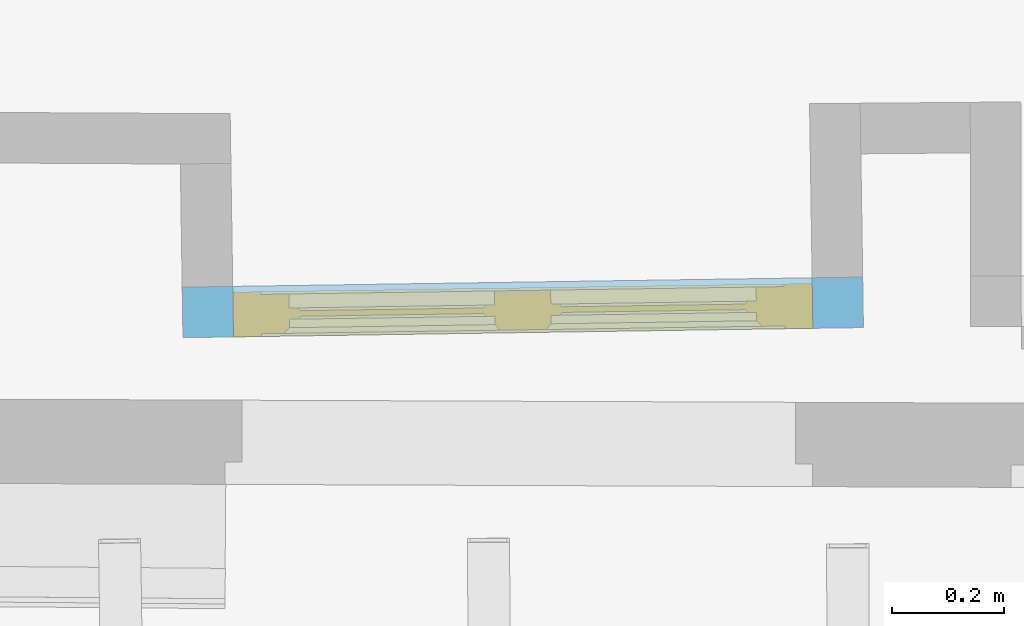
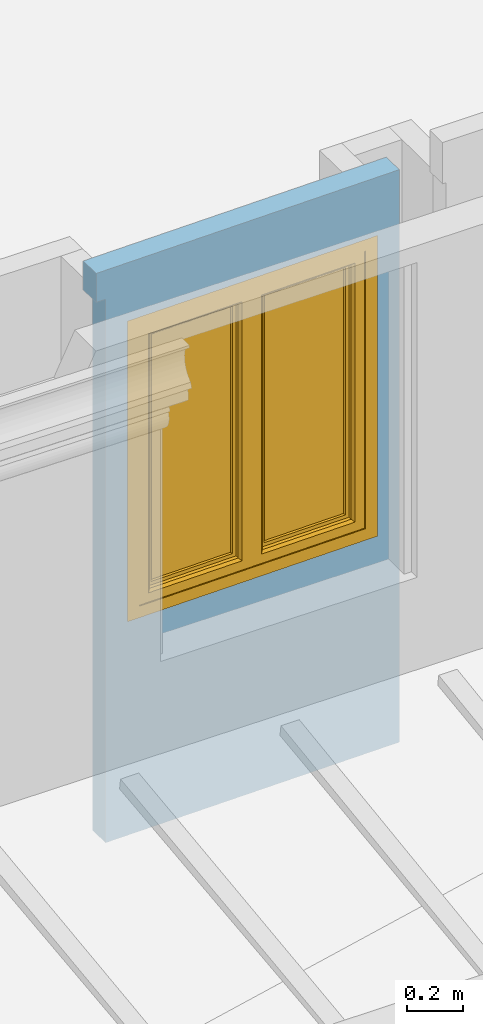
# One storey, part 42 of 72: 1 window, 1 opening, plus 1 element that does not belong to this part.
"""IFC2X3 building model written with IfcOpenShell, lengths in centimetres."""

from ifc_helpers import new_model, entity, si_unit, converted_unit, direction, frame, origin, origin_with_axes, origin_2d_with_axis, place, context, subcontext, project, spatial, polyline, rectangle, outline, extrude, clip, bounded_halfspace, faceted_brep, shape, source, transform, mapped, material, material_list, layer, layer_set, layer_usage, type_object, element, fill, save


model = new_model("IFC2X3")

# Units and contexts
model_context = context("Model", 3, precision=0.0001, world=origin(), true_north=direction((0.225632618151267, 0.974212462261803, 0.0)))
body_context = subcontext(model_context, "Body", "Model", "MODEL_VIEW")
footprint_context = subcontext(model_context, "FootPrint", "Model", "MODEL_VIEW")
profile_context = subcontext(model_context, "Profile", "Model", "MODEL_VIEW")
ifc_project = project(units=[si_unit("LENGTHUNIT", "METRE", prefix="CENTI"), si_unit("AREAUNIT", "SQUARE_METRE", prefix="CENTI"), si_unit("VOLUMEUNIT", "CUBIC_METRE", prefix="CENTI"), converted_unit("PLANEANGLEUNIT", "DEGREE", entity("IfcRatioMeasure", 0.0174532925), si_unit("PLANEANGLEUNIT", "RADIAN"), dimensions=[0, 0, 0, 0, 0, 0, 0])], contexts=[model_context])

# Site, building, storey
site_placement = place(None, origin_with_axes())
site = spatial("IfcSite", under=ifc_project, at=site_placement, Name="Default Site", CompositionType="ELEMENT")
building_placement = place(site_placement, origin_with_axes())
building = spatial("IfcBuilding", under=site, at=building_placement, Name="Default Building", CompositionType="ELEMENT")
storey_placement = place(building_placement, frame((0.0, 0.0, 853.910374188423), z_axis=(0.0, 0.0, 1.0), x_axis=(1.0, 0.0, 0.0)))
storey = spatial("IfcBuildingStorey", under=building, at=storey_placement, Name="Niveau 2", CompositionType="ELEMENT", Elevation=853.910374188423)

# Wall, opening, window
ifc_material_1 = material(Name="<aucun>")
ifc_layer = layer(ifc_material_1, 9.0)
ifc_layer_set = layer_set([ifc_layer], Name="default")
ifc_layer_usage = layer_usage(ifc_layer_set, "AXIS2", "POSITIVE", -4.5)
wall_type = type_object("IfcWallType", Name="default 90", PredefinedType="NOTDEFINED", material=ifc_layer_set)
wall_placement = place(storey_placement, frame((-341.950629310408, -714.315023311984, 1.4210854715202e-12), z_axis=(0.0, 0.0, 1.0), x_axis=(0.999890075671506, 0.0148268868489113, 0.0)))
wall = element("IfcWallStandardCase", 1, at=wall_placement, inside=storey, type_object=wall_type, material=ifc_layer_usage, Name="Enveloppe 158783", context=body_context, shape_type="Clipping", body=[
    clip(extrude(rectangle(XDim=125.007775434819, YDim=9.00000000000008, at=origin_2d_with_axis()), frame((62.5038877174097, 1.77635683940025e-13, -1.06581410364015e-12), z_axis=(0.0, 0.0, 1.0), x_axis=(1.0, 2.62290189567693e-15, 0.0)), (0.0, 0.0, 1.0), 247.500000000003), bounded_halfspace(frame((0.0, 4.50000000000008, 234.999999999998), z_axis=(0.0, 0.0, 1.0), x_axis=(1.0, -6.38551711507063e-15, 0.0)), True, frame((0.0, 4.50000000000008, 234.999999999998), z_axis=(0.0, 0.0, 1.0), x_axis=(1.0, 0.0, 0.0)), polyline([(0.0, -8.99999999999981), (0.0, 0.0), (3.84491063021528, 8.88178419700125e-14), (3.84491063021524, -8.99999999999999), (0.0, -8.99999999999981)]))),
])
opening_placement = place(wall_placement, frame((12.8449106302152, 0.0, 92.2964592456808), z_axis=(0.0, 0.0, 1.0), x_axis=(1.0, 2.62290189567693e-15, 0.0)))
cartesian_point_1 = entity("IfcCartesianPoint", [0.0, 1.77635683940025e-13, 130.0])
cartesian_point_2 = entity("IfcCartesianPoint", [103.162864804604, 4.50000000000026])
opening = element("IfcOpeningElement", 2, at=opening_placement, cuts=wall, Name="4294966444_11", ObjectType="Opening", shapes=[
    shape(body_context, "Body", "SweptSolid", [extrude(outline(polyline([(0.0, 130.0), (0.0, 0.0), (103.162864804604, 0.0), (103.162864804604, 130.0), (0.0, 130.0)])), frame((0.0, 14.5, 0.0), z_axis=(0.0, -1.0, 0.0), x_axis=(1.0, 0.0, 0.0)), (0.0, 0.0, 1.0), 29.0)]),
    shape(profile_context, "Profile", "GeometricCurveSet", [entity("IfcGeometricCurveSet", [entity("IfcPolyline", [cartesian_point_1, entity("IfcCartesianPoint", [0.0, 1.77635683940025e-13, 0.0]), entity("IfcCartesianPoint", [103.162864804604, 1.77635683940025e-13, 0.0]), entity("IfcCartesianPoint", [103.162864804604, 1.77635683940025e-13, 130.0]), cartesian_point_1])])]),
    shape(footprint_context, "FootPrint", "GeometricCurveSet", [entity("IfcGeometricCurveSet", [entity("IfcPolyline", [cartesian_point_2, entity("IfcCartesianPoint", [0.0, 4.50000000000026]), entity("IfcCartesianPoint", [-4.44089209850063e-14, -4.49999999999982]), entity("IfcCartesianPoint", [103.162864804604, -4.4999999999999]), cartesian_point_2])])]),
])
ifc_material_2 = material(Name="Transparent")
ifc_material_3 = material(Name="Jaune 255-255-0")
ifc_material_4 = material(Name="Aluminium satiné")
ifc_material_list = material_list([ifc_material_2, ifc_material_3, ifc_material_4])
window_style = type_object("IfcWindowStyle", Name="FN[R] 2VB[1V] MM", ConstructionType="NOTDEFINED", OperationType="DOUBLE_PANEL_VERTICAL", ParameterTakesPrecedence=True, Sizeable=False, material=ifc_material_list)
shared_shape = source(origin_with_axes(), body_context, "Body", "Brep", [
    faceted_brep([(-46.58143222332, 125.0, -3.99999991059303), (-46.58143222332, 125.0, 3.99999991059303), (-46.58143222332, 5.00000007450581, 3.99999991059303), (-46.58143222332, 5.00000007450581, -3.99999991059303), (-51.5814304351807, 129.999995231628, 3.99999991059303), (-51.5814304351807, 0.0, 3.99999991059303), (-51.5814304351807, 129.999995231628, -3.99999991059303), (-51.5814304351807, 9.48150143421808e-31, -3.99999991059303), (-51.5814304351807, 9.48150143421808e-31, 3.99999991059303), (-51.5814304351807, 0.0, -3.99999991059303), (46.58143222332, 5.0000000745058, 3.99999991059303), (46.58143222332, 5.0000000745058, -3.99999991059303), (51.5814304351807, 0.0, 3.99999991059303), (46.58143222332, 5.00000007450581, 3.99999991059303), (51.5814304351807, 0.0, -3.99999991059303), (46.58143222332, 5.00000007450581, -3.99999991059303), (46.58143222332, 125.0, 3.99999991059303), (46.58143222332, 125.0, -3.99999991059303), (51.5814304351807, 129.999995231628, 3.99999991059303), (51.5814304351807, 129.999995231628, -3.99999991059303)], [[[0, 1, 2, 3]], [[1, 4, 5, 2]], [[4, 6, 7, 8]], [[6, 0, 3, 9]], [[3, 2, 10, 11]], [[2, 5, 12, 13]], [[5, 9, 14, 12]], [[9, 3, 15, 14]], [[15, 13, 16, 17]], [[13, 12, 18, 16]], [[12, 14, 19, 18]], [[14, 15, 17, 19]], [[17, 16, 1, 0]], [[16, 18, 4, 1]], [[18, 19, 6, 4]], [[19, 17, 0, 6]]]),
    faceted_brep([(-42.581433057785, 121.000003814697, -3.50000001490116), (-41.5814320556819, 120.000004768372, -2.49999901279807), (-41.581432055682, 10.0000001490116, -2.49999901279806), (-42.581433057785, 9.00000035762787, -3.50000001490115), (-41.5814310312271, 120.000004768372, -2.5000000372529), (-41.5814310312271, 120.000004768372, 3.50000001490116), (-41.5814310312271, 10.0000001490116, 3.50000001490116), (-41.5814310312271, 10.0000001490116, -2.5000000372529), (-46.58143222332, 125.0, 3.50000001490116), (-46.58143222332, 5.00000007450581, 3.50000001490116), (-46.58143222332, 125.0, -3.50000001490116), (-46.58143222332, 5.00000007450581, -3.50000001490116), (-42.581433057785, 9.00000035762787, -3.50000001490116), (-41.5814310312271, 10.0000002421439, -2.50000013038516), (-5.00000007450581, 10.0000002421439, -2.50000013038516), (-3.99999991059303, 9.00000035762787, -3.50000001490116), (-5.00000007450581, 10.0000001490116, 3.50000001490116), (-5.00000007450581, 10.0000001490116, -2.5000000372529), (0.0, 5.00000007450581, 3.50000001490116), (0.0, 5.00000007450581, -3.50000001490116), (-4.99999998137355, 10.0000001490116, -2.49999994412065), (-4.99999998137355, 120.000004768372, -2.49999994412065), (-3.99999991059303, 121.000003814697, -3.50000001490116), (-5.00000007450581, 120.000004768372, 3.50000001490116), (-5.00000007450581, 120.000004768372, -2.5000000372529), (5.55111512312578e-15, 125.0, 3.50000001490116), (5.5511149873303e-15, 125.0, -3.50000001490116), (5.5511149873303e-15, 125.0, 3.50000001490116), (5.55111512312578e-15, 125.0, -3.50000001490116), (-5.00000007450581, 120.00000430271, -2.50000050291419), (-41.5814310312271, 120.00000430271, -2.50000050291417), (-42.581433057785, 121.000003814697, -3.50000001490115)], [[[0, 1, 2, 3]], [[4, 5, 6, 7]], [[5, 8, 9, 6]], [[8, 10, 11, 9]], [[10, 0, 12, 11]], [[12, 13, 14, 15]], [[7, 6, 16, 17]], [[6, 9, 18, 16]], [[9, 11, 19, 18]], [[11, 12, 15, 19]], [[15, 20, 21, 22]], [[17, 16, 23, 24]], [[16, 18, 25, 23]], [[18, 19, 26, 27]], [[19, 15, 22, 28]], [[22, 29, 30, 31]], [[24, 23, 5, 4]], [[23, 25, 8, 5]], [[25, 28, 10, 8]], [[28, 22, 0, 10]]]),
    faceted_brep([(-40.0814324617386, 118.499994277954, -0.999999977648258), (-39.5814327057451, 117.999994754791, -0.500000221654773), (-39.5814327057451, 11.9999997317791, -0.500000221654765), (-40.0814324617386, 11.5000002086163, -0.99999997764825), (-39.5814329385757, 117.999994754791, -0.499999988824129), (-39.5814329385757, 117.999994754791, 0.499999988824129), (-39.5814329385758, 11.9999997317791, 0.499999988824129), (-39.5814329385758, 11.9999997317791, -0.499999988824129), (-40.0814326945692, 118.499994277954, 0.999999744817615), (-40.0814326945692, 11.5000002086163, 0.999999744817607), (-39.5814329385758, 11.9999997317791, 0.499999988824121), (-40.0814324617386, 118.499994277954, 0.999999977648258), (-41.5814310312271, 120.000004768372, 0.999999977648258), (-41.5814310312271, 10.0000001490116, 0.999999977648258), (-40.0814324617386, 11.5000002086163, 0.999999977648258), (-41.5814310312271, 120.000004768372, -0.999999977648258), (-41.5814310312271, 10.0000001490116, -0.999999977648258), (-40.0814324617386, 11.5000002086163, -0.999999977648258), (-39.5814329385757, 11.9999999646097, -0.500000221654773), (-7.00000002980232, 11.9999999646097, -0.500000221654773), (-6.49999976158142, 11.5000002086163, -0.999999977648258), (-39.5814329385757, 11.9999997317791, -0.499999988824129), (-39.5814329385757, 11.9999997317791, 0.499999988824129), (-7.00000002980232, 11.9999997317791, 0.499999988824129), (-7.00000002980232, 11.9999997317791, -0.499999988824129), (-40.0814324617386, 11.4999999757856, 0.999999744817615), (-6.49999976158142, 11.4999999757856, 0.999999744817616), (-7.00000002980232, 11.9999997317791, 0.499999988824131), (-5.00000007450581, 10.0000001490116, 0.999999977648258), (-6.49999976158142, 11.5000002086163, 0.999999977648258), (-5.00000007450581, 10.0000001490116, -0.999999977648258), (-6.99999989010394, 11.9999997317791, -0.499999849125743), (-6.99999989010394, 117.999994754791, -0.499999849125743), (-6.49999976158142, 118.499994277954, -0.999999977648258), (-7.00000002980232, 117.999994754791, 0.499999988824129), (-7.00000002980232, 117.999994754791, -0.499999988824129), (-6.49999990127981, 11.5000002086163, 1.00000011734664), (-6.4999999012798, 118.499994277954, 1.00000011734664), (-7.00000002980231, 117.999994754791, 0.499999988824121), (-5.00000007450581, 120.000004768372, 0.999999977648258), (-6.49999976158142, 118.499994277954, 0.999999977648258), (-5.0000000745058, 120.000004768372, -0.999999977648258), (-5.0000000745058, 120.000004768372, 0.999999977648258), (-5.00000007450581, 120.000004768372, -0.999999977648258), (-7.00000002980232, 117.999994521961, -0.500000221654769), (-39.5814329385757, 117.999994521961, -0.500000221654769), (-6.49999976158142, 118.499994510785, 0.999999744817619), (-40.0814324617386, 118.499994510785, 0.999999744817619)], [[[0, 1, 2, 3]], [[4, 5, 6, 7]], [[5, 8, 9, 10]], [[11, 12, 13, 14]], [[12, 15, 16, 13]], [[15, 0, 17, 16]], [[17, 18, 19, 20]], [[21, 22, 23, 24]], [[22, 25, 26, 27]], [[14, 13, 28, 29]], [[13, 16, 30, 28]], [[16, 17, 20, 30]], [[20, 31, 32, 33]], [[24, 23, 34, 35]], [[23, 36, 37, 38]], [[29, 28, 39, 40]], [[28, 30, 41, 42]], [[30, 20, 33, 43]], [[33, 44, 45, 0]], [[35, 34, 5, 4]], [[34, 46, 47, 5]], [[40, 39, 12, 11]], [[39, 43, 15, 12]], [[43, 33, 0, 15]]]),
    faceted_brep([(-7.00000002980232, 117.999994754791, -0.499999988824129), (-7.00000002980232, 11.9999997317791, -0.499999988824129), (-39.5814329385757, 11.9999997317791, -0.499999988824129), (-39.5814329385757, 117.999994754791, -0.499999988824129), (-39.5814329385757, 117.999994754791, 0.499999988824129), (-39.5814329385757, 11.9999997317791, 0.499999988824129), (-7.00000002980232, 11.9999997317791, 0.499999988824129), (-7.00000002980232, 117.999994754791, 0.499999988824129), (-39.5814329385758, 11.9999997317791, -0.499999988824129), (-39.5814329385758, 11.9999997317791, 0.499999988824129)], [[[0, 1, 2, 3]], [[4, 5, 6, 7]], [[3, 8, 9, 4]], [[2, 1, 6, 5]], [[1, 0, 7, 6]], [[0, 3, 4, 7]]]),
    faceted_brep([(3.99999991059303, 121.000003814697, -3.50000001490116), (4.99999998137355, 120.000004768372, -2.49999994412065), (4.99999998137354, 10.0000001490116, -2.49999994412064), (3.99999991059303, 9.00000035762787, -3.50000001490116), (5.00000007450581, 120.000004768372, -2.5000000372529), (5.00000007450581, 120.000004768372, 3.50000001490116), (5.0000000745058, 10.0000001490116, 3.50000001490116), (5.0000000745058, 10.0000001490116, -2.5000000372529), (5.55111512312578e-15, 125.0, 3.50000001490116), (0.0, 5.00000007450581, 3.50000001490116), (5.00000007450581, 10.0000001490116, 3.50000001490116), (5.55111512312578e-15, 125.0, -3.50000001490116), (1.35795483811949e-22, 5.00000007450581, -3.50000001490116), (1.35795483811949e-22, 5.00000007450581, 3.50000001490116), (0.0, 5.00000007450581, -3.50000001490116), (5.00000007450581, 10.0000002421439, -2.50000013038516), (41.5814310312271, 10.0000002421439, -2.50000013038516), (42.581433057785, 9.00000035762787, -3.50000001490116), (5.00000007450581, 10.0000001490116, -2.5000000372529), (41.5814310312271, 10.0000001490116, 3.50000001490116), (41.5814310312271, 10.0000001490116, -2.5000000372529), (46.58143222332, 5.00000007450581, 3.50000001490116), (46.58143222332, 5.00000007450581, -3.50000001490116), (41.5814320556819, 10.0000001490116, -2.49999901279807), (41.5814320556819, 120.000004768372, -2.49999901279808), (42.581433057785, 121.000003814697, -3.50000001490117), (41.5814310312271, 120.000004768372, 3.50000001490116), (41.5814310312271, 120.000004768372, -2.5000000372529), (46.58143222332, 125.0, 3.50000001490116), (46.58143222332, 125.0, -3.50000001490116), (42.581433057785, 121.000003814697, -3.50000001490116), (41.5814310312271, 120.00000430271, -2.50000050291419), (5.00000007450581, 120.00000430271, -2.50000050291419)], [[[0, 1, 2, 3]], [[4, 5, 6, 7]], [[5, 8, 9, 10]], [[8, 11, 12, 13]], [[11, 0, 3, 14]], [[3, 15, 16, 17]], [[18, 10, 19, 20]], [[10, 9, 21, 19]], [[9, 14, 22, 21]], [[14, 3, 17, 22]], [[17, 23, 24, 25]], [[20, 19, 26, 27]], [[19, 21, 28, 26]], [[21, 22, 29, 28]], [[22, 17, 30, 29]], [[30, 31, 32, 0]], [[27, 26, 5, 4]], [[26, 28, 8, 5]], [[28, 29, 11, 8]], [[29, 30, 0, 11]]]),
    faceted_brep([(4.50000017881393, 67.0000016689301, 3.50000001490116), (4.50000017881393, 62.9999995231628, 3.50000001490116), (0.499999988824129, 62.9999995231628, 3.50000001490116), (0.499999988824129, 67.0000016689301, 3.50000001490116), (0.499999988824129, 67.0000016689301, 4.30000014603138), (0.499999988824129, 62.9999995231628, 4.30000014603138), (4.50000017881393, 62.9999995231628, 4.30000014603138), (4.50000017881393, 67.0000016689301, 4.30000014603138)], [[[0, 1, 2, 3]], [[4, 5, 6, 7]], [[3, 2, 5, 4]], [[2, 1, 6, 5]], [[1, 0, 7, 6]], [[0, 3, 4, 7]]]),
    faceted_brep([(3.24999988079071, 65.4999971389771, 4.30000014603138), (3.24999988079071, 64.4999980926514, 4.30000014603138), (1.75000000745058, 64.4999980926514, 4.30000014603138), (1.75000000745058, 65.4999971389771, 4.30000014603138), (1.75000000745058, 65.4999971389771, 8.29999968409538), (1.75000000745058, 64.4999977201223, 7.30000026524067), (3.24999988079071, 64.4999977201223, 7.30000026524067), (3.24999988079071, 65.4999971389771, 8.29999968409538), (1.75000000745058, 64.4999980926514, 7.29999989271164), (3.24999988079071, 64.4999980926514, 7.29999989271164)], [[[0, 1, 2, 3]], [[4, 5, 6, 7]], [[3, 2, 8, 4]], [[2, 1, 9, 8]], [[1, 0, 7, 9]], [[0, 3, 4, 7]]]),
    faceted_brep([(3.24999988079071, 65.4999971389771, 8.29999968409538), (3.24999988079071, 64.4999977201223, 7.30000026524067), (1.75000000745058, 64.4999977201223, 7.30000026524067), (1.75000000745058, 65.4999971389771, 8.29999968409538), (1.75000000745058, 52.4999976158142, 8.29999968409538), (1.75000000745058, 52.4999976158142, 7.29999989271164), (3.24999988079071, 52.4999976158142, 7.29999989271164), (3.24999988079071, 52.4999976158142, 8.29999968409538), (1.75000000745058, 64.4999980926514, 7.29999989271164), (3.24999988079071, 64.4999980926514, 7.29999989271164)], [[[0, 1, 2, 3]], [[4, 5, 6, 7]], [[3, 8, 5, 4]], [[8, 9, 6, 5]], [[9, 0, 7, 6]], [[0, 3, 4, 7]]]),
    faceted_brep([(6.49999976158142, 118.499994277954, -0.999999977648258), (6.99999989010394, 117.999994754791, -0.499999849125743), (6.99999989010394, 11.9999997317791, -0.499999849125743), (6.49999976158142, 11.5000002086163, -0.999999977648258), (7.00000002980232, 117.999994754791, -0.499999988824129), (7.00000002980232, 117.999994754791, 0.499999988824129), (7.00000002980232, 11.9999997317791, 0.499999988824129), (7.00000002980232, 11.9999997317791, -0.499999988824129), (6.49999990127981, 118.499994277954, 1.00000011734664), (6.4999999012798, 11.5000002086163, 1.00000011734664), (7.00000002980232, 11.9999997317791, 0.499999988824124), (6.49999976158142, 118.499994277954, 0.999999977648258), (5.00000007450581, 120.000004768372, 0.999999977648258), (5.00000007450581, 10.0000001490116, 0.999999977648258), (6.49999976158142, 11.5000002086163, 0.999999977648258), (5.00000007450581, 120.000004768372, -0.999999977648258), (5.0000000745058, 10.0000001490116, -0.999999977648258), (5.0000000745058, 10.0000001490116, 0.999999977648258), (5.00000007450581, 10.0000001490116, -0.999999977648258), (7.00000002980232, 11.9999999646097, -0.500000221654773), (39.5814329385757, 11.9999999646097, -0.500000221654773), (40.0814324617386, 11.5000002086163, -0.999999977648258), (39.5814329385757, 11.9999997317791, 0.499999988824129), (39.5814329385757, 11.9999997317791, -0.499999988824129), (6.49999976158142, 11.4999999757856, 0.999999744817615), (40.0814324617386, 11.4999999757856, 0.999999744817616), (39.5814329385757, 11.9999997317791, 0.499999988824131), (41.5814310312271, 10.0000001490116, 0.999999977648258), (40.0814324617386, 11.5000002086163, 0.999999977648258), (41.5814310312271, 10.0000001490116, -0.999999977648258), (39.5814327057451, 11.9999997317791, -0.500000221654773), (39.5814327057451, 117.999994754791, -0.500000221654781), (40.0814324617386, 118.499994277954, -0.999999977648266), (39.5814329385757, 117.999994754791, 0.499999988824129), (39.5814329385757, 117.999994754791, -0.499999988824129), (40.0814326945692, 11.5000002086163, 0.999999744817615), (40.0814326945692, 118.499994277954, 0.999999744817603), (39.5814329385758, 117.999994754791, 0.499999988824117), (41.5814310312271, 120.000004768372, 0.999999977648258), (40.0814324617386, 118.499994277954, 0.999999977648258), (41.5814310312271, 120.000004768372, -0.999999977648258), (40.0814324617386, 118.499994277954, -0.999999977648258), (39.5814329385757, 117.999994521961, -0.500000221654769), (7.00000002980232, 117.999994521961, -0.500000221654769), (40.0814324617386, 118.499994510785, 0.999999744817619), (6.49999976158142, 118.499994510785, 0.999999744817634), (7.00000002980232, 117.999994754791, 0.499999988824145)], [[[0, 1, 2, 3]], [[4, 5, 6, 7]], [[5, 8, 9, 10]], [[11, 12, 13, 14]], [[12, 15, 16, 17]], [[15, 0, 3, 18]], [[3, 19, 20, 21]], [[7, 6, 22, 23]], [[6, 24, 25, 26]], [[14, 13, 27, 28]], [[13, 18, 29, 27]], [[18, 3, 21, 29]], [[21, 30, 31, 32]], [[23, 22, 33, 34]], [[22, 35, 36, 37]], [[28, 27, 38, 39]], [[27, 29, 40, 38]], [[29, 21, 41, 40]], [[41, 42, 43, 0]], [[34, 33, 5, 4]], [[33, 44, 45, 46]], [[39, 38, 12, 11]], [[38, 40, 15, 12]], [[40, 41, 0, 15]]]),
    faceted_brep([(39.5814329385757, 117.999994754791, -0.499999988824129), (39.5814329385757, 11.9999997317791, -0.499999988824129), (7.00000002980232, 11.9999997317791, -0.499999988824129), (7.00000002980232, 117.999994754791, -0.499999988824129), (7.00000002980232, 117.999994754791, 0.499999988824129), (7.00000002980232, 11.9999997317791, 0.499999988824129), (39.5814329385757, 11.9999997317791, 0.499999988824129), (39.5814329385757, 117.999994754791, 0.499999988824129)], [[[0, 1, 2, 3]], [[4, 5, 6, 7]], [[3, 2, 5, 4]], [[2, 1, 6, 5]], [[1, 0, 7, 6]], [[0, 3, 4, 7]]]),
])
window_placement = place(opening_placement, frame((5.6843418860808e-14, -4.49999999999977, -1.4210854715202e-14), z_axis=(0.0, 0.0, 1.0), x_axis=(1.0, 0.0, 0.0)))
window = element("IfcWindow", 3, at=window_placement, inside=storey, type_object=window_style, material=ifc_material_list, Name="Fenêtre 158930", OverallHeight=130.0, OverallWidth=103.162864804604, context=body_context, shape_type="MappedRepresentation", body=[
    mapped(shared_shape, transform((51.581432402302, 4.00000000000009, 0.0), x_axis=(-1.0, 0.0, 0.0), y_axis=(0.0, 0.0, 1.0), z_axis=(0.0, 1.0, 0.0), scale=1.0, scale2=1.0, scale3=1.0, uniform=False)),
])
fill(opening, window)

save(model, "model.ifc")
